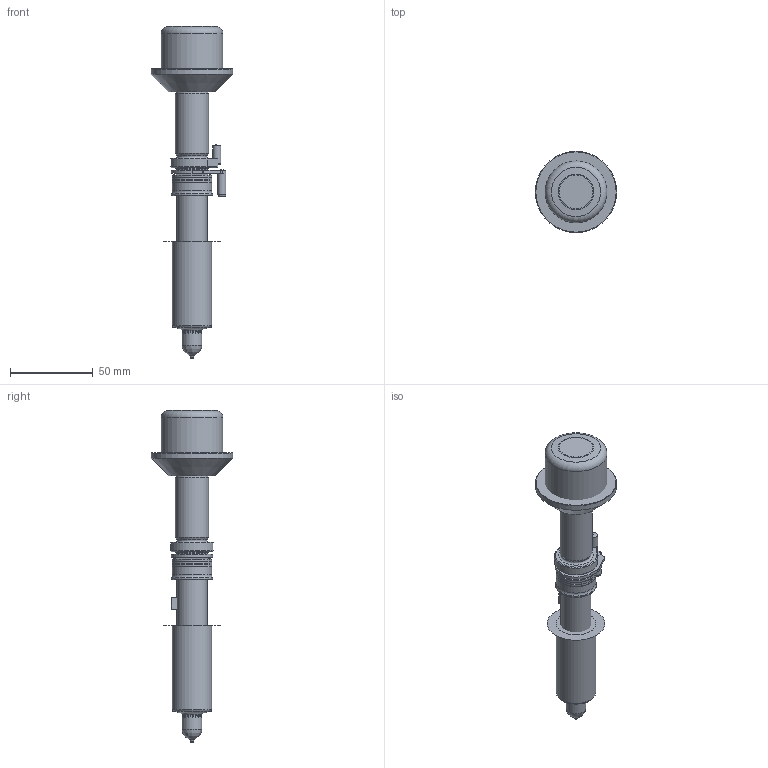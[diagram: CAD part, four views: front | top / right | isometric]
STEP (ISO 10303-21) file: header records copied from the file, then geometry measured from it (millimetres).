
FILE_DESCRIPTION(/* description */ (''),/* implementation_level */ '2;1');
FILE_NAME(/* name */ 'U500 VG-X.stp',/* time_stamp */ '2021-01-18T13:53:22+05:00',/* author */ (''),/* organization */ (''),/* preprocessor_version */ 'ST-DEVELOPER v16',/* originating_system */ 'SIEMENS PLM Software NX 11.0',/* authorisation */ '');
FILE_SCHEMA (('AUTOMOTIVE_DESIGN { 1 0 10303 214 3 1 1 1 }'));
Length unit declared in the file: millimetre
Products named in the file (23): 123456_3D_ASSY_10588727_0_id6_x_t; 123456_3D_ASSY_10588727_0_id11_x_t; 123456_3D_ASSY_10588727_0_id16_x_t; 123456_3D_ASSY_10588727_0_id21_x_t; 123456_3D_ASSY_10588727_0_id30_x_t; 123456_3D_ASSY_10588727_0_id35_x_t; 123456_3D_ASSY_10588727_0_id40_x_t; 123456_3D_ASSY_10588727_0_id45_x_t; 123456_3D_ASSY_10588727_0_id50_x_t; 123456_3D_ASSY_10588727_0_id55_x_t; 123456_3D_ASSY_10588727_0_id60_x_t; 123456_3D_ASSY_10588727_0_id65_x_t; 123456_3D_ASSY_10588727_0_id70_x_t; 123456_3D_ASSY_10588727_0_id75_x_t; 123456_3D_ASSY_10588727_0_id80_x_t; 123456_3D_ASSY_10588727_0_id85_x_t; 123456_3D_ASSY_10588727_0_id90_x_t; 123456_3D_ASSY_10588727_0_id95_x_t; 123456_3D_ASSY_10588727_0_id100_x_t; 123456_3D_ASSY_10588727_0_id105_x_t; 123456_3D_ASSY_10588727_0_id110_x_t; 123456_3D_ASSY_10588727_0_id115_x_t; 123456_3D_ASSY_10588727_0_x_t
Assembly tree (25 placements, depth 2):
  123456_3D_ASSY_10588727_0_x_t
    123456_3D_ASSY_10588727_0_id115_x_t  x2
    123456_3D_ASSY_10588727_0_id110_x_t
    123456_3D_ASSY_10588727_0_id105_x_t
    123456_3D_ASSY_10588727_0_id100_x_t
    123456_3D_ASSY_10588727_0_id95_x_t
    123456_3D_ASSY_10588727_0_id90_x_t
    123456_3D_ASSY_10588727_0_id85_x_t
    123456_3D_ASSY_10588727_0_id80_x_t
    123456_3D_ASSY_10588727_0_id75_x_t
    123456_3D_ASSY_10588727_0_id70_x_t
    123456_3D_ASSY_10588727_0_id65_x_t
    123456_3D_ASSY_10588727_0_id60_x_t
    123456_3D_ASSY_10588727_0_id55_x_t
    123456_3D_ASSY_10588727_0_id50_x_t
    123456_3D_ASSY_10588727_0_id45_x_t
    123456_3D_ASSY_10588727_0_id40_x_t
    123456_3D_ASSY_10588727_0_id35_x_t
    123456_3D_ASSY_10588727_0_id30_x_t
    123456_3D_ASSY_10588727_0_id21_x_t  x3
    123456_3D_ASSY_10588727_0_id16_x_t
    123456_3D_ASSY_10588727_0_id11_x_t
    123456_3D_ASSY_10588727_0_id6_x_t
Bounding box: 49 x 49 x 200.57 mm (x, y, z)
Volume: 128221.3 mm3; surface area: 45612.2 mm2
Topology: 25 solids, 25 shells, 314 faces, 642 edges, 400 vertices
Faces by surface type: plane 136, cylinder 86, cone 48, torus 39, sphere 3, bspline 2
Full cylindrical faces by diameter (mm): 1 x2, 1.7 x2, 1.8 x2, 2.95 x1, 2.985 x1, 4.027 x1, 5 x2, 6.895 x1, 7.4 x2, 7.5 x1, 8.8 x2, 8.944 x1, 8.999 x1, 9 x1, 11.5 x1, 11.7 x1, 11.86 x1, 12 x1, 12.01 x1, 12.3 x1, 12.494 x1, 12.5 x1, 12.66 x1, 12.7 x1, 12.715 x2, 12.735 x1, 12.76 x1, 13.005 x1, 13.23 x1, 13.725 x2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
Entity records: 9593 total; most frequent: CARTESIAN_POINT 1400, DIRECTION 1328, ORIENTED_EDGE 900, AXIS2_PLACEMENT_3D 579, EDGE_LOOP 462, EDGE_CURVE 450, VERTEX_POINT 352, FACE_BOUND 328
